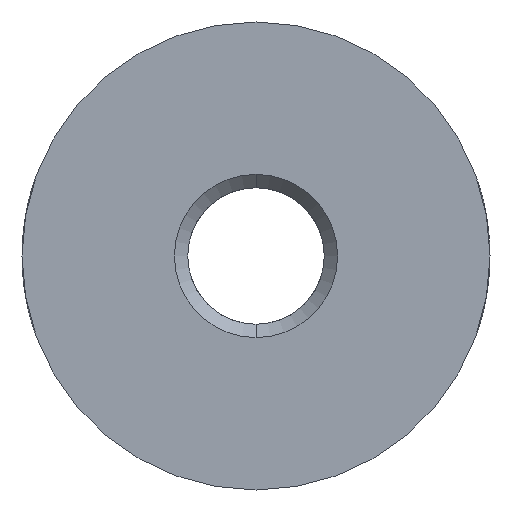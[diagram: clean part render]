
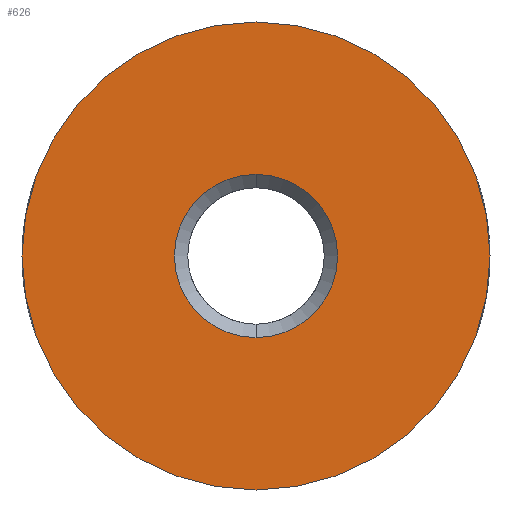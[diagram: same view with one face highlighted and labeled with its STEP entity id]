
A CAD part, front view. The second image highlights one B-rep face of the part: STEP entity #626.
In plain terms, the highlighted planar face has unit normal (0, -1, 0).
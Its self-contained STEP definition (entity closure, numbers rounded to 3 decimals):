
#56 = VERTEX_POINT ( 'NONE', #212 ) ;
#61 = DIRECTION ( 'NONE',  ( 0., 1., 0. ) ) ;
#106 = ORIENTED_EDGE ( 'NONE', *, *, #441, .F. ) ;
#157 = PLANE ( 'NONE',  #772 ) ;
#158 = AXIS2_PLACEMENT_3D ( 'NONE', #677, #358, #673 ) ;
#160 = CARTESIAN_POINT ( 'NONE',  ( 0., 0., 1.75 ) ) ;
#163 = CARTESIAN_POINT ( 'NONE',  ( 0., 0., -1.75 ) ) ;
#199 = AXIS2_PLACEMENT_3D ( 'NONE', #462, #61, #264 ) ;
#212 = CARTESIAN_POINT ( 'NONE',  ( 0., 0., 0.61 ) ) ;
#247 = DIRECTION ( 'NONE',  ( 0., 0., 1. ) ) ;
#258 = EDGE_CURVE ( 'NONE', #548, #56, #611, .T. ) ;
#264 = DIRECTION ( 'NONE',  ( 0., 0., 1. ) ) ;
#284 = CIRCLE ( 'NONE', #158, 0.61 ) ;
#294 = DIRECTION ( 'NONE',  ( 0., 0., 1. ) ) ;
#355 = DIRECTION ( 'NONE',  ( 0., 0., 1. ) ) ;
#358 = DIRECTION ( 'NONE',  ( 0., 1., 0. ) ) ;
#387 = AXIS2_PLACEMENT_3D ( 'NONE', #608, #546, #355 ) ;
#411 = CARTESIAN_POINT ( 'NONE',  ( 0., 0., -0.61 ) ) ;
#441 = EDGE_CURVE ( 'NONE', #743, #788, #527, .T. ) ;
#444 = FACE_OUTER_BOUND ( 'NONE', #742, .T. ) ;
#462 = CARTESIAN_POINT ( 'NONE',  ( 0., 0., 0. ) ) ;
#492 = DIRECTION ( 'NONE',  ( 0., 1., 0. ) ) ;
#527 = CIRCLE ( 'NONE', #199, 1.75 ) ;
#546 = DIRECTION ( 'NONE',  ( 0., 1., 0. ) ) ;
#548 = VERTEX_POINT ( 'NONE', #411 ) ;
#551 = AXIS2_PLACEMENT_3D ( 'NONE', #694, #492, #247 ) ;
#606 = ORIENTED_EDGE ( 'NONE', *, *, #655, .F. ) ;
#608 = CARTESIAN_POINT ( 'NONE',  ( 0., 0., 0. ) ) ;
#611 = CIRCLE ( 'NONE', #551, 0.61 ) ;
#619 = CARTESIAN_POINT ( 'NONE',  ( 0., 0., 0. ) ) ;
#626 = ADVANCED_FACE ( 'NONE', ( #693, #444 ), #157, .F. ) ;
#635 = CIRCLE ( 'NONE', #387, 1.75 ) ;
#646 = EDGE_CURVE ( 'NONE', #56, #548, #284, .T. ) ;
#655 = EDGE_CURVE ( 'NONE', #788, #743, #635, .T. ) ;
#670 = DIRECTION ( 'NONE',  ( 0., 1., 0. ) ) ;
#673 = DIRECTION ( 'NONE',  ( 0., 0., 1. ) ) ;
#677 = CARTESIAN_POINT ( 'NONE',  ( 0., 0., 0. ) ) ;
#693 = FACE_BOUND ( 'NONE', #761, .T. ) ;
#694 = CARTESIAN_POINT ( 'NONE',  ( 0., 0., 0. ) ) ;
#702 = ORIENTED_EDGE ( 'NONE', *, *, #258, .T. ) ;
#712 = ORIENTED_EDGE ( 'NONE', *, *, #646, .T. ) ;
#742 = EDGE_LOOP ( 'NONE', ( #106, #606 ) ) ;
#743 = VERTEX_POINT ( 'NONE', #163 ) ;
#761 = EDGE_LOOP ( 'NONE', ( #702, #712 ) ) ;
#772 = AXIS2_PLACEMENT_3D ( 'NONE', #619, #670, #294 ) ;
#788 = VERTEX_POINT ( 'NONE', #160 ) ;
